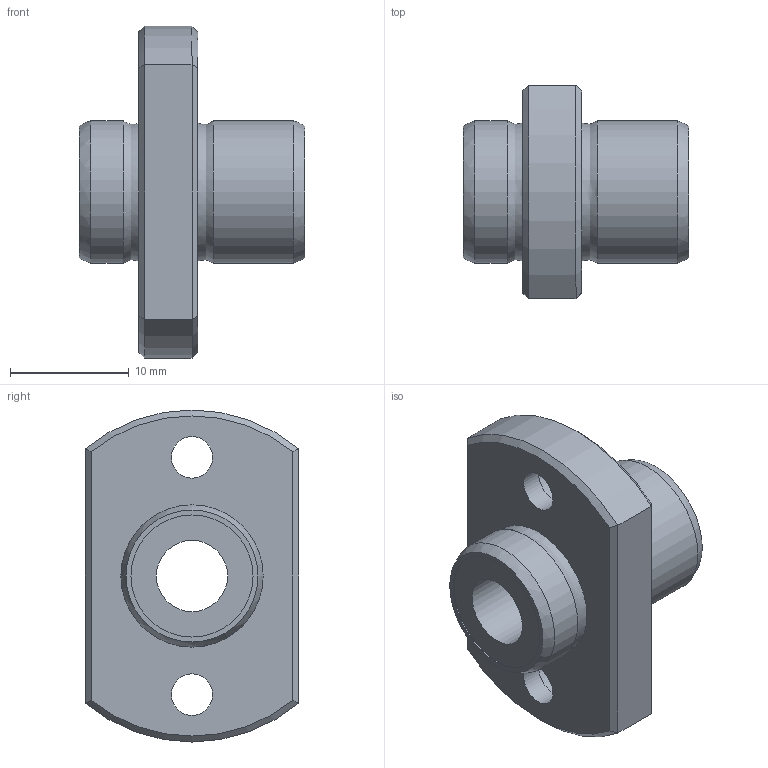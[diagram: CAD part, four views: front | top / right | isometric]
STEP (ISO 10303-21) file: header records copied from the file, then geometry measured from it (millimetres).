
FILE_DESCRIPTION((''),'2;1');
FILE_NAME('D:\製品 (図面)\カタログ用3D\リニアベアリング関連\STEP形式\LFTB\LFTB6.stp','2010-06-04T09:21:45',('Tsuchiya'),(''),'Autodesk Inventor 10','Autodesk Inventor 10','');
FILE_SCHEMA(('AUTOMOTIVE_DESIGN { 1 0 10303 214 1 1 1 1 }'));
Length unit declared in the file: millimetre
Products named in the file (1): LFTB6
Bounding box: 19 x 18 x 28 mm (x, y, z)
Volume: 3097.6 mm3; surface area: 2238.6 mm2
Topology: 1 solids, 1 shells, 33 faces, 63 edges, 38 vertices
Faces by surface type: plane 12, bspline 10, cylinder 7, cone 4
Full cylindrical faces by diameter (mm): 6 x1, 10.3 x2, 12 x2
Entity records: 1021 total; most frequent: CARTESIAN_POINT 396, DIRECTION 120, ORIENTED_EDGE 100, EDGE_LOOP 58, AXIS2_PLACEMENT_3D 54, EDGE_CURVE 50, VERTEX_POINT 38, FACE_OUTER_BOUND 33
